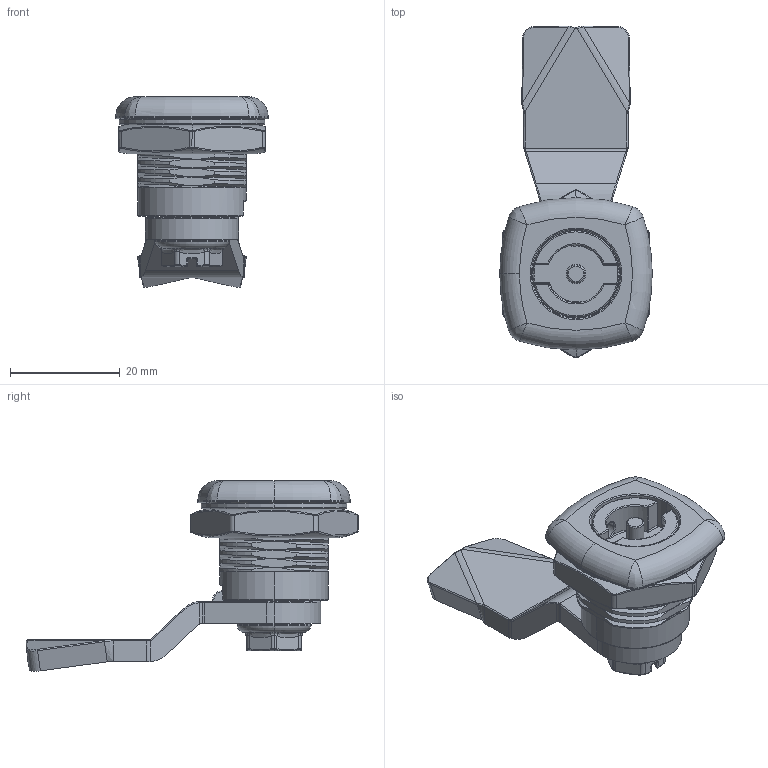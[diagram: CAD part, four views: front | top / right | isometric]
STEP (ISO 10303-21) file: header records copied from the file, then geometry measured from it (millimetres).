
FILE_DESCRIPTION (( 'STEP AP214' ), '1' );
FILE_NAME ('DLZ-704-1.STEP', '2019-02-22T06:47:00', ( '' ), ( '' ), 'SwSTEP 2.0', 'SolidWorks 2010', '' );
FILE_SCHEMA (( 'AUTOMOTIVE_DESIGN' ));
Length unit declared in the file: millimetre
Products named in the file (7): DLZ-704-1; 鎖芯; 六角螺母; 防水墊片; 基座; M6螺絲; DS1B4507-S
Assembly tree (6 placements, depth 2):
  DLZ-704-1
    基座
    DS1B4507-S
    鎖芯
    六角螺母
    防水墊片
    M6螺絲
Bounding box: 27.8 x 60.55 x 34.74 mm (x, y, z)
Volume: 12006.2 mm3; surface area: 10703.2 mm2
Topology: 6 solids, 6 shells, 828 faces, 1974 edges, 1123 vertices
Faces by surface type: cylinder 319, torus 169, plane 159, bspline 122, sphere 59
Entity records: 42451 total; most frequent: CARTESIAN_POINT 24091, ORIENTED_EDGE 3860, DIRECTION 3768, EDGE_CURVE 1930, AXIS2_PLACEMENT_3D 1590, VERTEX_POINT 1122, CIRCLE 875, EDGE_LOOP 844
